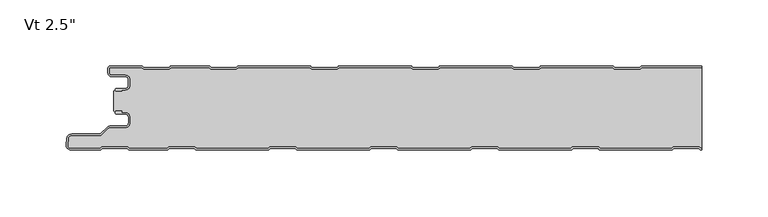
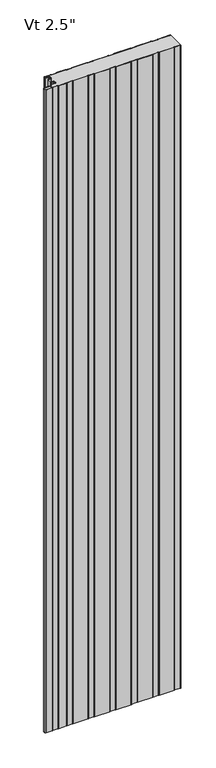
"""IFC4 building model written with IfcOpenShell, lengths in millimetres: plate geometry."""

from ifc_helpers import new_model, si_unit, point, frame, frame_2d, origin, origin_with_axes, place, context, project, spatial, polyline, circle_curve, trimmed, segment, composite_curve, outline, extrude, source, transform, mapped, element, save
from ifc_brep_helpers import plane_surface, cylinder_surface, revolved_surface, advanced_brep


def plate_c58314a5(model_context):
    return source(origin(), model_context, "Body", "SolidModel", [
        advanced_brep(
        [(-219.9686911, -17.0015243, 2400.0), (-220.9686883, -18.0015275, 2400.0), (-219.9686911, -19.0015188, 2400.0), (-215.9684874, -19.0015188, 2400.0), (-215.9684874, -18.0015243, 2400.0), (-213.2762776, -18.0015243, 2400.0), (-209.9762819, -14.7015286, 2400.0), (-209.9762819, -10.3015374, 2400.0), (-213.2762774, -7.0015419, 2400.0), (-223.6962563, -7.0015419, 2400.0), (-225.4662505, -5.2315477, 2400.0), (-225.4662505, -1.0, 2400.0), (-200.9659739, -1.0, 2400.0), (-199.5803313, -2.2002391, 2400.0), (-180.205165, -2.2002391, 2400.0), (-178.819532, -1.0000084, 2400.0), (-150.1661166, -1.0000084, 2400.0), (-148.7804837, -2.2002391, 2400.0), (-129.4053174, -2.2002391, 2400.0), (-128.0196844, -1.0000084, 2400.0), (-73.966269, -1.0000084, 2400.0), (-72.5806361, -2.2002391, 2400.0), (-53.2054698, -2.2002391, 2400.0), (-51.8198368, -1.0000084, 2400.0), (2.2335786, -1.0000084, 2400.0), (3.6192115, -2.2002391, 2400.0), (22.9943778, -2.2002391, 2400.0), (24.3800108, -1.0000084, 2400.0), (78.4334262, -1.0000084, 2400.0), (79.8190591, -2.2002391, 2400.0), (99.1942254, -2.2002391, 2400.0), (100.5798584, -1.0000084, 2400.0), (154.6332738, -1.0000084, 2400.0), (156.0189067, -2.2002391, 2400.0), (175.394073, -2.2002391, 2400.0), (176.779706, -1.0000084, 2400.0), (221.9999998, -1.0000084, 2400.0), (221.9999998, -8.4e-06, 2400.0), (176.9288571, -8.4e-06, 2400.0), (176.0122402, -0.3417969, 2400.0), (175.0211926, -1.2002391, 2400.0), (156.3917872, -1.2002391, 2400.0), (155.4007395, -0.3417969, 2400.0), (154.4841226, -8.4e-06, 2400.0), (100.7290095, -8.4e-06, 2400.0), (99.8123926, -0.3417969, 2400.0), (98.821345, -1.2002391, 2400.0), (80.1919396, -1.2002391, 2400.0), (79.2008919, -0.3417969, 2400.0), (78.284275, -8.4e-06, 2400.0), (24.5291619, -8.4e-06, 2400.0), (23.612545, -0.3417969, 2400.0), (22.6214974, -1.2002391, 2400.0), (3.992092, -1.2002391, 2400.0), (3.0010443, -0.3417969, 2400.0), (2.0844274, -8.4e-06, 2400.0), (-51.6706857, -8.4e-06, 2400.0), (-52.5873026, -0.3417969, 2400.0), (-53.5783502, -1.2002391, 2400.0), (-72.2077556, -1.2002391, 2400.0), (-73.1988033, -0.3417969, 2400.0), (-74.1154202, -8.4e-06, 2400.0), (-127.8705333, -8.4e-06, 2400.0), (-128.7871502, -0.3417969, 2400.0), (-129.7781978, -1.2002391, 2400.0), (-148.4076032, -1.2002391, 2400.0), (-149.3986509, -0.3417969, 2400.0), (-150.3152678, -8.4e-06, 2400.0), (-178.6703809, -8.4e-06, 2400.0), (-179.5869978, -0.3417969, 2400.0), (-180.5780454, -1.2002391, 2400.0), (-199.2074508, -1.2002391, 2400.0), (-200.1984985, -0.3417969, 2400.0), (-201.1152068, -8.4e-06, 2400.0), (-225.0662544, 0.0, 2400.0), (-226.4662505, -1.3999962, 2400.0), (-226.4662505, -5.2315477, 2400.0), (-223.6962563, -8.0015419, 2400.0), (-213.2762774, -8.0015419, 2400.0), (-210.9762819, -10.3015374, 2400.0), (-210.9762819, -14.7015286, 2400.0), (-213.2762776, -17.0015243, 2400.0), (-219.9686911, -17.0015243, 0.0), (-213.2762776, -17.0015243, 0.0), (-210.9762819, -14.7015286, 0.0), (-210.9762819, -10.3015374, 0.0), (-213.2762774, -8.0015419, 0.0), (-223.6962563, -8.0015419, 0.0), (-226.4662505, -5.2315477, 0.0), (-226.4662505, -1.3999962, 0.0), (-225.0662544, 0.0, 0.0), (-201.1151154, 0.0, 0.0), (-200.1984985, -0.3417969, 0.0), (-199.2074508, -1.2002391, 0.0), (-180.5780454, -1.2002391, 0.0), (-179.5869978, -0.3417969, 0.0), (-178.6703809, -8.4e-06, 0.0), (-150.3152678, -8.4e-06, 0.0), (-149.3986509, -0.3417969, 0.0), (-148.4076032, -1.2002391, 0.0), (-129.7781978, -1.2002391, 0.0), (-128.7871502, -0.3417969, 0.0), (-127.8705333, -8.4e-06, 0.0), (-74.1154202, -8.4e-06, 0.0), (-73.1988033, -0.3417969, 0.0), (-72.2077556, -1.2002391, 0.0), (-53.5783502, -1.2002391, 0.0), (-52.5873026, -0.3417969, 0.0), (-51.6706857, -8.4e-06, 0.0), (2.0844274, -8.4e-06, 0.0), (3.0010443, -0.3417969, 0.0), (3.992092, -1.2002391, 0.0), (22.6214974, -1.2002391, 0.0), (23.612545, -0.3417969, 0.0), (24.5291619, -8.4e-06, 0.0), (78.284275, -8.4e-06, 0.0), (79.2008919, -0.3417969, 0.0), (80.1919396, -1.2002391, 0.0), (98.821345, -1.2002391, 0.0), (99.8123926, -0.3417969, 0.0), (100.7290095, -8.4e-06, 0.0), (154.4841226, -8.4e-06, 0.0), (155.4007395, -0.3417969, 0.0), (156.3917872, -1.2002391, 0.0), (175.0211926, -1.2002391, 0.0), (176.0122402, -0.3417969, 0.0), (176.9288571, -8.4e-06, 0.0), (221.9999998, -8.4e-06, 0.0), (221.9999998, -1.0000084, 0.0), (176.779706, -1.0000084, 0.0), (175.394073, -2.2002391, 0.0), (156.0189067, -2.2002391, 0.0), (154.6332738, -1.0000084, 0.0), (100.5798584, -1.0000084, 0.0), (99.1942254, -2.2002391, 0.0), (79.8190591, -2.2002391, 0.0), (78.4334262, -1.0000084, 0.0), (24.3800108, -1.0000084, 0.0), (22.9943778, -2.2002391, 0.0), (3.6192115, -2.2002391, 0.0), (2.2335786, -1.0000084, 0.0), (-51.8198368, -1.0000084, 0.0), (-53.2054698, -2.2002391, 0.0), (-72.5806361, -2.2002391, 0.0), (-73.966269, -1.0000084, 0.0), (-128.0196844, -1.0000084, 0.0), (-129.4053174, -2.2002391, 0.0), (-148.7804837, -2.2002391, 0.0), (-150.1661166, -1.0000084, 0.0), (-178.819532, -1.0000084, 0.0), (-180.205165, -2.2002391, 0.0), (-199.5803313, -2.2002391, 0.0), (-200.9659739, -1.0, 0.0), (-225.4662505, -1.0, 0.0), (-225.4662505, -5.2315477, 0.0), (-223.6962563, -7.0015419, 0.0), (-213.2762774, -7.0015419, 0.0), (-209.9762819, -10.3015374, 0.0), (-209.9762819, -14.7015286, 0.0), (-213.2762776, -18.0015243, 0.0), (-215.9684874, -18.0015243, 0.0), (-215.9684874, -19.0015188, 0.0), (-219.9686911, -19.0015188, 0.0), (-220.9686883, -18.0015275, 0.0)],
        [
            (0, 1, circle_curve(frame((-219.9686911, -18.0015215, 2400.0), z_axis=(0.0, 0.0, 1.0), x_axis=(1.0, 0.0, 0.0)), 0.9999973)),
            (1, 2, circle_curve(frame((-219.9686911, -18.0015216, 2400.0), z_axis=(0.0, 0.0, 1.0), x_axis=(1.0, 0.0, 0.0)), 0.9999972)),
            (2, 3),
            (3, 4),
            (4, 5),
            (5, 6, circle_curve(frame((-213.2762776, -14.7015286, 2400.0), z_axis=(0.0, 0.0, 1.0), x_axis=(1.0, 0.0, 0.0)), 3.2999957)),
            (6, 7),
            (7, 8, circle_curve(frame((-213.2762774, -10.3015374, 2400.0), z_axis=(0.0, 0.0, 1.0), x_axis=(1.0, 0.0, 0.0)), 3.2999955)),
            (8, 9),
            (9, 10, circle_curve(frame((-223.6962563, -5.2315477, 2400.0), z_axis=(0.0, 0.0, -1.0), x_axis=(1.0, 0.0, 0.0)), 1.7699942)),
            (10, 11),
            (11, 12),
            (12, 13),
            (13, 14),
            (14, 15),
            (15, 16),
            (16, 17),
            (17, 18),
            (18, 19),
            (19, 20),
            (20, 21),
            (21, 22),
            (22, 23),
            (23, 24),
            (24, 25),
            (25, 26),
            (26, 27),
            (27, 28),
            (28, 29),
            (29, 30),
            (30, 31),
            (31, 32),
            (32, 33),
            (33, 34),
            (34, 35),
            (35, 36),
            (36, 37),
            (37, 38),
            (38, 39, circle_curve(frame((176.9288571, -1.4000056, 2400.0), z_axis=(0.0, 0.0, 1.0), x_axis=(1.0, 0.0, 0.0)), 1.3999972)),
            (39, 40),
            (40, 41),
            (41, 42),
            (42, 43, circle_curve(frame((154.4841226, -1.4000056, 2400.0), z_axis=(0.0, 0.0, 1.0), x_axis=(1.0, 0.0, 0.0)), 1.3999972)),
            (43, 44),
            (44, 45, circle_curve(frame((100.7290095, -1.4000056, 2400.0), z_axis=(0.0, 0.0, 1.0), x_axis=(1.0, 0.0, 0.0)), 1.3999972)),
            (45, 46),
            (46, 47),
            (47, 48),
            (48, 49, circle_curve(frame((78.284275, -1.4000056, 2400.0), z_axis=(0.0, 0.0, 1.0), x_axis=(1.0, 0.0, 0.0)), 1.3999972)),
            (49, 50),
            (50, 51, circle_curve(frame((24.5291619, -1.4000056, 2400.0), z_axis=(0.0, 0.0, 1.0), x_axis=(1.0, 0.0, 0.0)), 1.3999972)),
            (51, 52),
            (52, 53),
            (53, 54),
            (54, 55, circle_curve(frame((2.0844274, -1.4000056, 2400.0), z_axis=(0.0, 0.0, 1.0), x_axis=(1.0, 0.0, 0.0)), 1.3999972)),
            (55, 56),
            (56, 57, circle_curve(frame((-51.6706857, -1.4000056, 2400.0), z_axis=(0.0, 0.0, 1.0), x_axis=(1.0, 0.0, 0.0)), 1.3999972)),
            (57, 58),
            (58, 59),
            (59, 60),
            (60, 61, circle_curve(frame((-74.1154202, -1.4000056, 2400.0), z_axis=(0.0, 0.0, 1.0), x_axis=(1.0, 0.0, 0.0)), 1.3999972)),
            (61, 62),
            (62, 63, circle_curve(frame((-127.8705333, -1.4000056, 2400.0), z_axis=(0.0, 0.0, 1.0), x_axis=(1.0, 0.0, 0.0)), 1.3999972)),
            (63, 64),
            (64, 65),
            (65, 66),
            (66, 67, circle_curve(frame((-150.3152678, -1.4000056, 2400.0), z_axis=(0.0, 0.0, 1.0), x_axis=(1.0, 0.0, 0.0)), 1.3999972)),
            (67, 68),
            (68, 69, circle_curve(frame((-178.6703809, -1.4000056, 2400.0), z_axis=(0.0, 0.0, 1.0), x_axis=(1.0, 0.0, 0.0)), 1.3999972)),
            (69, 70),
            (70, 71),
            (71, 72),
            (72, 73, circle_curve(frame((-201.1151154, -1.4000056, 2400.0), z_axis=(0.0, 0.0, 1.0), x_axis=(1.0, 0.0, 0.0)), 1.3999972)),
            (73, 74),
            (74, 75, circle_curve(frame((-225.0662544, -1.3999962, 2400.0), z_axis=(0.0, 0.0, 1.0), x_axis=(1.0, 0.0, 0.0)), 1.3999962)),
            (75, 76),
            (76, 77, circle_curve(frame((-223.6962563, -5.2315477, 2400.0), z_axis=(0.0, 0.0, 1.0), x_axis=(1.0, 0.0, 0.0)), 2.7699942)),
            (77, 78),
            (78, 79, circle_curve(frame((-213.2762774, -10.3015374, 2400.0), z_axis=(0.0, 0.0, -1.0), x_axis=(1.0, 0.0, 0.0)), 2.2999955)),
            (79, 80),
            (80, 81, circle_curve(frame((-213.2762776, -14.7015286, 2400.0), z_axis=(0.0, 0.0, -1.0), x_axis=(1.0, 0.0, 0.0)), 2.2999957)),
            (81, 0),
            (82, 83),
            (83, 84, circle_curve(frame((-213.2762776, -14.7015286, 0.0), z_axis=(0.0, 0.0, 1.0), x_axis=(1.0, 0.0, 0.0)), 2.2999957)),
            (84, 85),
            (85, 86, circle_curve(frame((-213.2762774, -10.3015374, 0.0), z_axis=(0.0, 0.0, 1.0), x_axis=(1.0, 0.0, 0.0)), 2.2999955)),
            (86, 87),
            (87, 88, circle_curve(frame((-223.6962563, -5.2315477, 0.0), z_axis=(0.0, 0.0, -1.0), x_axis=(1.0, 0.0, 0.0)), 2.7699942)),
            (88, 89),
            (89, 90, circle_curve(frame((-225.0662544, -1.3999962, 0.0), z_axis=(0.0, 0.0, -1.0), x_axis=(1.0, 0.0, 0.0)), 1.3999962)),
            (90, 91),
            (91, 92, circle_curve(frame((-201.1151154, -1.4000056, 0.0), z_axis=(0.0, 0.0, -1.0), x_axis=(1.0, 0.0, 0.0)), 1.3999972)),
            (92, 93),
            (93, 94),
            (94, 95),
            (95, 96, circle_curve(frame((-178.6703809, -1.4000056, 0.0), z_axis=(0.0, 0.0, -1.0), x_axis=(1.0, 0.0, 0.0)), 1.3999972)),
            (96, 97),
            (97, 98, circle_curve(frame((-150.3152678, -1.4000056, 0.0), z_axis=(0.0, 0.0, -1.0), x_axis=(1.0, 0.0, 0.0)), 1.3999972)),
            (98, 99),
            (99, 100),
            (100, 101),
            (101, 102, circle_curve(frame((-127.8705333, -1.4000056, 0.0), z_axis=(0.0, 0.0, -1.0), x_axis=(1.0, 0.0, 0.0)), 1.3999972)),
            (102, 103),
            (103, 104, circle_curve(frame((-74.1154202, -1.4000056, 0.0), z_axis=(0.0, 0.0, -1.0), x_axis=(1.0, 0.0, 0.0)), 1.3999972)),
            (104, 105),
            (105, 106),
            (106, 107),
            (107, 108, circle_curve(frame((-51.6706857, -1.4000056, 0.0), z_axis=(0.0, 0.0, -1.0), x_axis=(1.0, 0.0, 0.0)), 1.3999972)),
            (108, 109),
            (109, 110, circle_curve(frame((2.0844274, -1.4000056, 0.0), z_axis=(0.0, 0.0, -1.0), x_axis=(1.0, 0.0, 0.0)), 1.3999972)),
            (110, 111),
            (111, 112),
            (112, 113),
            (113, 114, circle_curve(frame((24.5291619, -1.4000056, 0.0), z_axis=(0.0, 0.0, -1.0), x_axis=(1.0, 0.0, 0.0)), 1.3999972)),
            (114, 115),
            (115, 116, circle_curve(frame((78.284275, -1.4000056, 0.0), z_axis=(0.0, 0.0, -1.0), x_axis=(1.0, 0.0, 0.0)), 1.3999972)),
            (116, 117),
            (117, 118),
            (118, 119),
            (119, 120, circle_curve(frame((100.7290095, -1.4000056, 0.0), z_axis=(0.0, 0.0, -1.0), x_axis=(1.0, 0.0, 0.0)), 1.3999972)),
            (120, 121),
            (121, 122, circle_curve(frame((154.4841226, -1.4000056, 0.0), z_axis=(0.0, 0.0, -1.0), x_axis=(1.0, 0.0, 0.0)), 1.3999972)),
            (122, 123),
            (123, 124),
            (124, 125),
            (125, 126, circle_curve(frame((176.9288571, -1.4000056, 0.0), z_axis=(0.0, 0.0, -1.0), x_axis=(1.0, 0.0, 0.0)), 1.3999972)),
            (126, 127),
            (127, 128),
            (128, 129),
            (129, 130),
            (130, 131),
            (131, 132),
            (132, 133),
            (133, 134),
            (134, 135),
            (135, 136),
            (136, 137),
            (137, 138),
            (138, 139),
            (139, 140),
            (140, 141),
            (141, 142),
            (142, 143),
            (143, 144),
            (144, 145),
            (145, 146),
            (146, 147),
            (147, 148),
            (148, 149),
            (149, 150),
            (150, 151),
            (151, 152),
            (152, 153),
            (153, 154),
            (154, 155, circle_curve(frame((-223.6962563, -5.2315477, 0.0), z_axis=(0.0, 0.0, 1.0), x_axis=(1.0, 0.0, 0.0)), 1.7699942)),
            (155, 156),
            (156, 157, circle_curve(frame((-213.2762774, -10.3015374, 0.0), z_axis=(0.0, 0.0, -1.0), x_axis=(1.0, 0.0, 0.0)), 3.2999955)),
            (157, 158),
            (158, 159, circle_curve(frame((-213.2762776, -14.7015286, 0.0), z_axis=(0.0, 0.0, -1.0), x_axis=(1.0, 0.0, 0.0)), 3.2999957)),
            (159, 160),
            (160, 161),
            (161, 162),
            (162, 163, circle_curve(frame((-219.9686911, -18.0015216, 0.0), z_axis=(0.0, 0.0, -1.0), x_axis=(1.0, 0.0, 0.0)), 0.9999972)),
            (163, 82, circle_curve(frame((-219.9686911, -18.0015215, 0.0), z_axis=(0.0, 0.0, -1.0), x_axis=(1.0, 0.0, 0.0)), 0.9999973)),
            (36, 128),
            (127, 37),
            (81, 83),
            (82, 0),
            (80, 84),
            (79, 85),
            (78, 86),
            (77, 87),
            (76, 88),
            (75, 89),
            (74, 90),
            (73, 91),
            (72, 92),
            (71, 93),
            (70, 94),
            (69, 95),
            (68, 96),
            (67, 97),
            (66, 98),
            (65, 99),
            (64, 100),
            (63, 101),
            (62, 102),
            (61, 103),
            (60, 104),
            (59, 105),
            (58, 106),
            (57, 107),
            (56, 108),
            (55, 109),
            (54, 110),
            (53, 111),
            (52, 112),
            (51, 113),
            (50, 114),
            (49, 115),
            (48, 116),
            (47, 117),
            (46, 118),
            (45, 119),
            (44, 120),
            (43, 121),
            (42, 122),
            (41, 123),
            (40, 124),
            (39, 125),
            (38, 126),
            (35, 129),
            (34, 130),
            (33, 131),
            (32, 132),
            (31, 133),
            (30, 134),
            (29, 135),
            (28, 136),
            (27, 137),
            (26, 138),
            (25, 139),
            (24, 140),
            (23, 141),
            (22, 142),
            (21, 143),
            (20, 144),
            (19, 145),
            (18, 146),
            (17, 147),
            (16, 148),
            (15, 149),
            (14, 150),
            (13, 151),
            (12, 152),
            (11, 153),
            (10, 154),
            (9, 155),
            (8, 156),
            (7, 157),
            (6, 158),
            (5, 159),
            (4, 160),
            (3, 161),
            (2, 162),
            (1, 163),
        ],
        [
            plane_surface(frame((286.0000002, -8.4e-06, 2400.0), z_axis=(0.0, 0.0, 1.0), x_axis=(0.0, 1.0, 0.0))),
            plane_surface(frame((286.0000002, -8.4e-06, 0.0), z_axis=(0.0, 0.0, -1.0), x_axis=(0.0, 1.0, 0.0))),
            plane_surface(frame((221.9999998, -73.5000084, 2400.0), z_axis=(1.0, 0.0, 0.0), x_axis=(0.0, 0.0, -1.0))),
            plane_surface(frame((-219.9686911, -17.0015243, 2400.0), z_axis=(0.0, 1.0, 0.0), x_axis=(0.0, 0.0, -1.0))),
            revolved_surface(polyline([(-210.97628189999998, -14.7015286, 0.0), (-210.97628189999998, -14.7015286, 2400.0)]), (-213.2762776, -14.7015286, 2400.0), (0.0, 0.0, -1.0)),
            plane_surface(frame((-210.9762819, -14.7015286, 2400.0), z_axis=(-1.0, 0.0, 0.0), x_axis=(0.0, 0.0, -1.0))),
            revolved_surface(polyline([(-210.9762819, -10.3015374, 0.0), (-210.9762819, -10.3015374, 2400.0)]), (-213.2762774, -10.3015374, 2400.0), (0.0, 0.0, -1.0)),
            plane_surface(frame((-213.2762774, -8.0015419, 2400.0), z_axis=(0.0, -1.0, 0.0), x_axis=(0.0, 0.0, -1.0))),
            cylinder_surface(frame((-223.6962563, -5.2315477, 2400.0), z_axis=(0.0, 0.0, 1.0), x_axis=(1.0, 0.0, 0.0)), 2.7699942),
            plane_surface(frame((-226.4662505, -5.2315477, 2400.0), z_axis=(-1.0, 0.0, 0.0), x_axis=(0.0, 0.0, -1.0))),
            cylinder_surface(frame((-225.0662544, -1.3999962, 2400.0), z_axis=(0.0, 0.0, 1.0), x_axis=(1.0, 0.0, 0.0)), 1.3999962),
            plane_surface(frame((-225.0662544, 0.0, 2400.0), z_axis=(0.0, 1.0, 0.0), x_axis=(0.0, 0.0, -1.0))),
            cylinder_surface(frame((-201.1151154, -1.4000056, 2400.0), z_axis=(0.0, 0.0, 1.0), x_axis=(1.0, 0.0, 0.0)), 1.3999972),
            plane_surface(frame((-200.1984985, -0.3417969, 2400.0), z_axis=(0.6547276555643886, 0.755864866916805, 0.0), x_axis=(0.0, 0.0, -1.0))),
            plane_surface(frame((-189.8927481, -1.2002391, 2400.0), z_axis=(0.0, 1.0, 0.0), x_axis=(0.0, 0.0, -1.0))),
            plane_surface(frame((-180.5780454, -1.2002391, 2400.0), z_axis=(-0.6547276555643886, 0.755864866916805, 0.0), x_axis=(0.0, 0.0, -1.0))),
            cylinder_surface(frame((-178.6703809, -1.4000056, 2400.0), z_axis=(0.0, 0.0, 1.0), x_axis=(1.0, 0.0, 0.0)), 1.3999972),
            plane_surface(frame((-178.6703809, -8.4e-06, 2400.0), z_axis=(0.0, 1.0, 0.0), x_axis=(0.0, 0.0, -1.0))),
            cylinder_surface(frame((-150.3152678, -1.4000056, 2400.0), z_axis=(0.0, 0.0, 1.0), x_axis=(1.0, 0.0, 0.0)), 1.3999972),
            plane_surface(frame((-149.3986509, -0.3417969, 2400.0), z_axis=(0.6547276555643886, 0.755864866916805, 0.0), x_axis=(0.0, 0.0, -1.0))),
            plane_surface(frame((-139.0929005, -1.2002391, 2400.0), z_axis=(0.0, 1.0, 0.0), x_axis=(0.0, 0.0, -1.0))),
            plane_surface(frame((-129.7781978, -1.2002391, 2400.0), z_axis=(-0.6547276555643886, 0.755864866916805, 0.0), x_axis=(0.0, 0.0, -1.0))),
            cylinder_surface(frame((-127.8705333, -1.4000056, 2400.0), z_axis=(0.0, 0.0, 1.0), x_axis=(1.0, 0.0, 0.0)), 1.3999972),
            plane_surface(frame((-127.8705333, -8.4e-06, 2400.0), z_axis=(0.0, 1.0, 0.0), x_axis=(0.0, 0.0, -1.0))),
            cylinder_surface(frame((-74.1154202, -1.4000056, 2400.0), z_axis=(0.0, 0.0, 1.0), x_axis=(1.0, 0.0, 0.0)), 1.3999972),
            plane_surface(frame((-73.1988033, -0.3417969, 2400.0), z_axis=(0.6547276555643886, 0.755864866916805, 0.0), x_axis=(0.0, 0.0, -1.0))),
            plane_surface(frame((-62.8930529, -1.2002391, 2400.0), z_axis=(0.0, 1.0, 0.0), x_axis=(0.0, 0.0, -1.0))),
            plane_surface(frame((-53.5783502, -1.2002391, 2400.0), z_axis=(-0.6547276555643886, 0.755864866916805, 0.0), x_axis=(0.0, 0.0, -1.0))),
            cylinder_surface(frame((-51.6706857, -1.4000056, 2400.0), z_axis=(0.0, 0.0, 1.0), x_axis=(1.0, 0.0, 0.0)), 1.3999972),
            plane_surface(frame((-51.6706857, -8.4e-06, 2400.0), z_axis=(0.0, 1.0, 0.0), x_axis=(0.0, 0.0, -1.0))),
            cylinder_surface(frame((2.0844274, -1.4000056, 2400.0), z_axis=(0.0, 0.0, 1.0), x_axis=(1.0, 0.0, 0.0)), 1.3999972),
            plane_surface(frame((3.0010443, -0.3417969, 2400.0), z_axis=(0.6547276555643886, 0.755864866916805, 0.0), x_axis=(0.0, 0.0, -1.0))),
            plane_surface(frame((13.3067947, -1.2002391, 2400.0), z_axis=(0.0, 1.0, 0.0), x_axis=(0.0, 0.0, -1.0))),
            plane_surface(frame((22.6214974, -1.2002391, 2400.0), z_axis=(-0.6547276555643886, 0.755864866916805, 0.0), x_axis=(0.0, 0.0, -1.0))),
            cylinder_surface(frame((24.5291619, -1.4000056, 2400.0), z_axis=(0.0, 0.0, 1.0), x_axis=(1.0, 0.0, 0.0)), 1.3999972),
            plane_surface(frame((24.5291619, -8.4e-06, 2400.0), z_axis=(0.0, 1.0, 0.0), x_axis=(0.0, 0.0, -1.0))),
            cylinder_surface(frame((78.284275, -1.4000056, 2400.0), z_axis=(0.0, 0.0, 1.0), x_axis=(1.0, 0.0, 0.0)), 1.3999972),
            plane_surface(frame((79.2008919, -0.3417969, 2400.0), z_axis=(0.6547276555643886, 0.755864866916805, 0.0), x_axis=(0.0, 0.0, -1.0))),
            plane_surface(frame((89.5066423, -1.2002391, 2400.0), z_axis=(0.0, 1.0, 0.0), x_axis=(0.0, 0.0, -1.0))),
            plane_surface(frame((98.821345, -1.2002391, 2400.0), z_axis=(-0.6547276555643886, 0.755864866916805, 0.0), x_axis=(0.0, 0.0, -1.0))),
            cylinder_surface(frame((100.7290095, -1.4000056, 2400.0), z_axis=(0.0, 0.0, 1.0), x_axis=(1.0, 0.0, 0.0)), 1.3999972),
            plane_surface(frame((100.7290095, -8.4e-06, 2400.0), z_axis=(0.0, 1.0, 0.0), x_axis=(0.0, 0.0, -1.0))),
            cylinder_surface(frame((154.4841226, -1.4000056, 2400.0), z_axis=(0.0, 0.0, 1.0), x_axis=(1.0, 0.0, 0.0)), 1.3999972),
            plane_surface(frame((155.4007395, -0.3417969, 2400.0), z_axis=(0.6547276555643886, 0.755864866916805, 0.0), x_axis=(0.0, 0.0, -1.0))),
            plane_surface(frame((165.7064899, -1.2002391, 2400.0), z_axis=(0.0, 1.0, 0.0), x_axis=(0.0, 0.0, -1.0))),
            plane_surface(frame((175.0211926, -1.2002391, 2400.0), z_axis=(-0.6547276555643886, 0.755864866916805, 0.0), x_axis=(0.0, 0.0, -1.0))),
            cylinder_surface(frame((176.9288571, -1.4000056, 2400.0), z_axis=(0.0, 0.0, 1.0), x_axis=(1.0, 0.0, 0.0)), 1.3999972),
            plane_surface(frame((176.9288571, -8.4e-06, 2400.0), z_axis=(0.0, 1.0, 0.0), x_axis=(0.0, 0.0, -1.0))),
            plane_surface(frame((230.8331214, -1.0000084, 2400.0), z_axis=(0.0, -1.0, 0.0), x_axis=(0.0, 0.0, -1.0))),
            plane_surface(frame((176.779706, -1.0000084, 2400.0), z_axis=(0.6547276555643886, -0.755864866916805, 0.0), x_axis=(0.0, 0.0, -1.0))),
            plane_surface(frame((175.394073, -2.2002391, 2400.0), z_axis=(0.0, -1.0, 0.0), x_axis=(0.0, 0.0, -1.0))),
            plane_surface(frame((156.0189067, -2.2002391, 2400.0), z_axis=(-0.6547276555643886, -0.755864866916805, 0.0), x_axis=(0.0, 0.0, -1.0))),
            plane_surface(frame((154.6332738, -1.0000084, 2400.0), z_axis=(0.0, -1.0, 0.0), x_axis=(0.0, 0.0, -1.0))),
            plane_surface(frame((100.5798584, -1.0000084, 2400.0), z_axis=(0.6547276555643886, -0.755864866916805, 0.0), x_axis=(0.0, 0.0, -1.0))),
            plane_surface(frame((99.1942254, -2.2002391, 2400.0), z_axis=(0.0, -1.0, 0.0), x_axis=(0.0, 0.0, -1.0))),
            plane_surface(frame((79.8190591, -2.2002391, 2400.0), z_axis=(-0.6547276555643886, -0.755864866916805, 0.0), x_axis=(0.0, 0.0, -1.0))),
            plane_surface(frame((78.4334262, -1.0000084, 2400.0), z_axis=(0.0, -1.0, 0.0), x_axis=(0.0, 0.0, -1.0))),
            plane_surface(frame((24.3800108, -1.0000084, 2400.0), z_axis=(0.6547276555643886, -0.755864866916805, 0.0), x_axis=(0.0, 0.0, -1.0))),
            plane_surface(frame((22.9943778, -2.2002391, 2400.0), z_axis=(0.0, -1.0, 0.0), x_axis=(0.0, 0.0, -1.0))),
            plane_surface(frame((3.6192115, -2.2002391, 2400.0), z_axis=(-0.6547276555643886, -0.755864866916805, 0.0), x_axis=(0.0, 0.0, -1.0))),
            plane_surface(frame((2.2335786, -1.0000084, 2400.0), z_axis=(0.0, -1.0, 0.0), x_axis=(0.0, 0.0, -1.0))),
            plane_surface(frame((-51.8198368, -1.0000084, 2400.0), z_axis=(0.6547276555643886, -0.755864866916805, 0.0), x_axis=(0.0, 0.0, -1.0))),
            plane_surface(frame((-53.2054698, -2.2002391, 2400.0), z_axis=(0.0, -1.0, 0.0), x_axis=(0.0, 0.0, -1.0))),
            plane_surface(frame((-72.5806361, -2.2002391, 2400.0), z_axis=(-0.6547276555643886, -0.755864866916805, 0.0), x_axis=(0.0, 0.0, -1.0))),
            plane_surface(frame((-73.966269, -1.0000084, 2400.0), z_axis=(0.0, -1.0, 0.0), x_axis=(0.0, 0.0, -1.0))),
            plane_surface(frame((-128.0196844, -1.0000084, 2400.0), z_axis=(0.6547276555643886, -0.755864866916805, 0.0), x_axis=(0.0, 0.0, -1.0))),
            plane_surface(frame((-129.4053174, -2.2002391, 2400.0), z_axis=(0.0, -1.0, 0.0), x_axis=(0.0, 0.0, -1.0))),
            plane_surface(frame((-148.7804837, -2.2002391, 2400.0), z_axis=(-0.6547276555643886, -0.755864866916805, 0.0), x_axis=(0.0, 0.0, -1.0))),
            plane_surface(frame((-150.1661166, -1.0000084, 2400.0), z_axis=(0.0, -1.0, 0.0), x_axis=(0.0, 0.0, -1.0))),
            plane_surface(frame((-178.819532, -1.0000084, 2400.0), z_axis=(0.6547276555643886, -0.755864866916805, 0.0), x_axis=(0.0, 0.0, -1.0))),
            plane_surface(frame((-180.205165, -2.2002391, 2400.0), z_axis=(0.0, -1.0, 0.0), x_axis=(0.0, 0.0, -1.0))),
            plane_surface(frame((-199.5803313, -2.2002391, 2400.0), z_axis=(-0.6547276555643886, -0.755864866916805, 0.0), x_axis=(0.0, 0.0, -1.0))),
            plane_surface(frame((-200.9659739, -1.0, 2400.0), z_axis=(0.0, -1.0, 0.0), x_axis=(0.0, 0.0, -1.0))),
            plane_surface(frame((-225.4662505, -1.0, 2400.0), z_axis=(1.0, 0.0, 0.0), x_axis=(0.0, 0.0, -1.0))),
            revolved_surface(polyline([(-221.92626209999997, -5.2315477, 0.0), (-221.92626209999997, -5.2315477, 2400.0)]), (-223.6962563, -5.2315477, 2400.0), (0.0, 0.0, -1.0)),
            plane_surface(frame((-223.6962563, -7.0015419, 2400.0), z_axis=(0.0, 1.0, 0.0), x_axis=(0.0, 0.0, -1.0))),
            cylinder_surface(frame((-213.2762774, -10.3015374, 2400.0), z_axis=(0.0, 0.0, 1.0), x_axis=(1.0, 0.0, 0.0)), 3.2999955),
            plane_surface(frame((-209.9762819, -10.3015374, 2400.0), z_axis=(1.0, 0.0, 0.0), x_axis=(0.0, 0.0, -1.0))),
            cylinder_surface(frame((-213.2762776, -14.7015286, 2400.0), z_axis=(0.0, 0.0, 1.0), x_axis=(1.0, 0.0, 0.0)), 3.2999957),
            plane_surface(frame((-213.2762776, -18.0015243, 2400.0), z_axis=(0.0, -1.0, 0.0), x_axis=(0.0, 0.0, -1.0))),
            plane_surface(frame((-215.9684874, -18.0015243, 2400.0), z_axis=(1.0, 0.0, 0.0), x_axis=(0.0, 0.0, -1.0))),
            plane_surface(frame((-215.9684874, -19.0015188, 2400.0), z_axis=(0.0, -1.0, 0.0), x_axis=(0.0, 0.0, -1.0))),
            cylinder_surface(frame((-219.9686911, -18.0015216, 2400.0), z_axis=(0.0, 0.0, 1.0), x_axis=(1.0, 0.0, 0.0)), 0.9999972),
            cylinder_surface(frame((-219.9686911, -18.0015215, 2400.0), z_axis=(0.0, 0.0, 1.0), x_axis=(1.0, 0.0, 0.0)), 0.9999973),
        ],
        [
            (0, [[1, 2, 3, 4, 5, 6, 7, 8, 9, 10, 11, 12, 13, 14, 15, 16, 17, 18, 19, 20, 21, 22, 23, 24, 25, 26, 27, 28, 29, 30, 31, 32, 33, 34, 35, 36, 37, 38, 39, 40, 41, 42, 43, 44, 45, 46, 47, 48, 49, 50, 51, 52, 53, 54, 55, 56, 57, 58, 59, 60, 61, 62, 63, 64, 65, 66, 67, 68, 69, 70, 71, 72, 73, 74, 75, 76, 77, 78, 79, 80, 81, 82]]),
            (1, [[83, 84, 85, 86, 87, 88, 89, 90, 91, 92, 93, 94, 95, 96, 97, 98, 99, 100, 101, 102, 103, 104, 105, 106, 107, 108, 109, 110, 111, 112, 113, 114, 115, 116, 117, 118, 119, 120, 121, 122, 123, 124, 125, 126, 127, 128, 129, 130, 131, 132, 133, 134, 135, 136, 137, 138, 139, 140, 141, 142, 143, 144, 145, 146, 147, 148, 149, 150, 151, 152, 153, 154, 155, 156, 157, 158, 159, 160, 161, 162, 163, 164]]),
            (2, [[165, -128, 166, -37]]),
            (3, [[167, -83, 168, -82]]),
            (4, [[169, -84, -167, -81]]),
            (5, [[170, -85, -169, -80]]),
            (6, [[171, -86, -170, -79]]),
            (7, [[172, -87, -171, -78]]),
            (8, [[173, -88, -172, -77]]),
            (9, [[174, -89, -173, -76]]),
            (10, [[175, -90, -174, -75]]),
            (11, [[176, -91, -175, -74]]),
            (12, [[177, -92, -176, -73]]),
            (13, [[178, -93, -177, -72]]),
            (14, [[179, -94, -178, -71]]),
            (15, [[180, -95, -179, -70]]),
            (16, [[181, -96, -180, -69]]),
            (17, [[182, -97, -181, -68]]),
            (18, [[183, -98, -182, -67]]),
            (19, [[184, -99, -183, -66]]),
            (20, [[185, -100, -184, -65]]),
            (21, [[186, -101, -185, -64]]),
            (22, [[187, -102, -186, -63]]),
            (23, [[188, -103, -187, -62]]),
            (24, [[189, -104, -188, -61]]),
            (25, [[190, -105, -189, -60]]),
            (26, [[191, -106, -190, -59]]),
            (27, [[192, -107, -191, -58]]),
            (28, [[193, -108, -192, -57]]),
            (29, [[194, -109, -193, -56]]),
            (30, [[195, -110, -194, -55]]),
            (31, [[196, -111, -195, -54]]),
            (32, [[197, -112, -196, -53]]),
            (33, [[198, -113, -197, -52]]),
            (34, [[199, -114, -198, -51]]),
            (35, [[200, -115, -199, -50]]),
            (36, [[201, -116, -200, -49]]),
            (37, [[202, -117, -201, -48]]),
            (38, [[203, -118, -202, -47]]),
            (39, [[204, -119, -203, -46]]),
            (40, [[205, -120, -204, -45]]),
            (41, [[206, -121, -205, -44]]),
            (42, [[207, -122, -206, -43]]),
            (43, [[208, -123, -207, -42]]),
            (44, [[209, -124, -208, -41]]),
            (45, [[210, -125, -209, -40]]),
            (46, [[211, -126, -210, -39]]),
            (47, [[-38, -166, -127, -211]]),
            (48, [[-129, -165, -36, 212]]),
            (49, [[213, -130, -212, -35]]),
            (50, [[214, -131, -213, -34]]),
            (51, [[215, -132, -214, -33]]),
            (52, [[216, -133, -215, -32]]),
            (53, [[217, -134, -216, -31]]),
            (54, [[218, -135, -217, -30]]),
            (55, [[219, -136, -218, -29]]),
            (56, [[220, -137, -219, -28]]),
            (57, [[221, -138, -220, -27]]),
            (58, [[222, -139, -221, -26]]),
            (59, [[223, -140, -222, -25]]),
            (60, [[224, -141, -223, -24]]),
            (61, [[225, -142, -224, -23]]),
            (62, [[226, -143, -225, -22]]),
            (63, [[227, -144, -226, -21]]),
            (64, [[228, -145, -227, -20]]),
            (65, [[229, -146, -228, -19]]),
            (66, [[230, -147, -229, -18]]),
            (67, [[231, -148, -230, -17]]),
            (68, [[232, -149, -231, -16]]),
            (69, [[233, -150, -232, -15]]),
            (70, [[234, -151, -233, -14]]),
            (71, [[235, -152, -234, -13]]),
            (72, [[236, -153, -235, -12]]),
            (73, [[237, -154, -236, -11]]),
            (74, [[238, -155, -237, -10]]),
            (75, [[239, -156, -238, -9]]),
            (76, [[240, -157, -239, -8]]),
            (77, [[241, -158, -240, -7]]),
            (78, [[242, -159, -241, -6]]),
            (79, [[243, -160, -242, -5]]),
            (80, [[244, -161, -243, -4]]),
            (81, [[245, -162, -244, -3]]),
            (82, [[246, -163, -245, -2]]),
            (83, [[-168, -164, -246, -1]]),
        ],
    ),
        extrude(outline(composite_curve([segment(polyline([(-232.6415932, -63.4997462), (-254.4521175, -63.4997462)]), True, "CONTINUOUS"), segment(trimmed(circle_curve(frame_2d((-254.4521175, -59.9295069)), 3.5702393), [point((-254.4521175, -63.4997462))], [point((-258.0087619, -59.6182365))], False, "CARTESIAN"), True, "CONTINUOUS"), segment(polyline([(-258.0087619, -59.6182365), (-257.5690674, -54.5941899)]), True, "CONTINUOUS"), segment(trimmed(circle_curve(frame_2d((-253.9198391, -55.204991)), 3.6999926), [point((-257.5690674, -54.5941899))], [point((-253.9198391, -51.5049984))], False, "CARTESIAN"), True, "CONTINUOUS"), segment(polyline([(-253.9198391, -51.5049984), (-232.7773995, -51.5049984)]), True, "CONTINUOUS"), segment(trimmed(circle_curve(frame_2d((-232.7773995, -50.205001)), 1.2999974), [point((-232.7773995, -51.5049984))], [point((-231.8581626, -51.124238))], True, "CARTESIAN"), True, "CONTINUOUS"), segment(polyline([(-231.8581626, -51.124238), (-227.0297451, -46.2958205)]), True, "CONTINUOUS"), segment(trimmed(circle_curve(frame_2d((-225.1205606, -48.205005)), 2.6999946), [point((-227.0297451, -46.2958205))], [point((-225.1205606, -45.5050104))], False, "CARTESIAN"), True, "CONTINUOUS"), segment(polyline([(-225.1205606, -45.5050104), (-213.3096715, -45.5050104)]), True, "CONTINUOUS"), segment(trimmed(circle_curve(frame_2d((-213.3096715, -43.1550151)), 2.3499953), [point((-213.3096715, -45.5050104))], [point((-210.9596762, -43.1550151))], True, "CARTESIAN"), True, "CONTINUOUS"), segment(polyline([(-210.9596762, -43.1550151), (-210.9596762, -38.7550239)]), True, "CONTINUOUS"), segment(trimmed(circle_curve(frame_2d((-213.3096715, -38.7550239)), 2.3499953), [point((-210.9596762, -38.7550239))], [point((-213.3096715, -36.4050286))], True, "CARTESIAN"), True, "CONTINUOUS"), segment(polyline([(-213.3096715, -36.4050286), (-219.8289777, -36.4050286)]), True, "CONTINUOUS"), segment(trimmed(circle_curve(frame_2d((-219.7686906, -35.2065463)), 1.1999976), [point((-219.8289777, -36.4050286))], [point((-220.9683, -35.1760244))], False, "CARTESIAN"), True, "CONTINUOUS"), segment(trimmed(circle_curve(frame_2d((-219.7686906, -35.2065463)), 1.1999976), [point((-220.9683, -35.1760244))], [point((-219.767176, -34.0065497))], False, "CARTESIAN"), True, "CONTINUOUS"), segment(polyline([(-219.767176, -34.0065497), (-216.0087826, -34.0065497), (-216.0087826, -35.4050286), (-213.3096715, -35.4050286)]), True, "CONTINUOUS"), segment(trimmed(circle_curve(frame_2d((-213.3096715, -38.7550239)), 3.3499953), [point((-213.3096715, -35.4050286))], [point((-209.9596762, -38.7550239))], False, "CARTESIAN"), True, "CONTINUOUS"), segment(polyline([(-209.9596762, -38.7550239), (-209.9596762, -43.1550151)]), True, "CONTINUOUS"), segment(trimmed(circle_curve(frame_2d((-213.3096715, -43.1550151)), 3.3499953), [point((-209.9596762, -43.1550151))], [point((-213.3096715, -46.5050104))], False, "CARTESIAN"), True, "CONTINUOUS"), segment(polyline([(-213.3096715, -46.5050104), (-225.1205606, -46.5050104)]), True, "CONTINUOUS"), segment(trimmed(circle_curve(frame_2d((-225.1205606, -48.205005)), 1.6999946), [point((-225.1205606, -46.5050104))], [point((-226.3226383, -47.0029273))], True, "CARTESIAN"), True, "CONTINUOUS"), segment(polyline([(-226.3226383, -47.0029273), (-231.8247094, -52.5049984), (-253.9198391, -52.5049984)]), True, "CONTINUOUS"), segment(trimmed(circle_curve(frame_2d((-253.9198391, -55.204991)), 2.6999926), [point((-253.9198391, -52.5049984))], [point((-256.5765707, -54.7236004))], True, "CARTESIAN"), True, "CONTINUOUS"), segment(polyline([(-256.5765707, -54.7236004), (-257.0125697, -59.7054212)]), True, "CONTINUOUS"), segment(trimmed(circle_curve(frame_2d((-254.4521175, -59.9295069)), 2.5702393), [point((-257.0125697, -59.7054212))], [point((-254.4521175, -62.4997462))], True, "CARTESIAN"), True, "CONTINUOUS"), segment(polyline([(-254.4521175, -62.4997462), (-232.479096, -62.4997462), (-231.2791275, -61.2997777), (-211.559715, -61.2997777), (-210.3594843, -62.5000084), (-181.6793525, -62.5000084), (-180.4791218, -61.2997777), (-160.7597093, -61.2997777), (-159.5594786, -62.5000084), (-105.4793468, -62.5000084), (-104.2791161, -61.2997777), (-84.5597036, -61.2997777), (-83.3594729, -62.5000084), (-29.2793411, -62.5000084), (-28.0791104, -61.2997777), (-8.3596979, -61.2997777), (-7.1594672, -62.5000084), (46.9206646, -62.5000084), (48.1208953, -61.2997777), (67.8403078, -61.2997777), (69.0405385, -62.5000084), (123.1206703, -62.5000084), (124.320901, -61.2997777), (144.0403135, -61.2997777), (145.2405442, -62.5000084), (199.3206759, -62.5000084), (200.5209066, -61.2997777), (220.2403192, -61.2997777), (221.4405499, -62.5000084), (221.9999998, -62.5000084), (221.9999998, -63.5000084), (221.6098268, -63.5000084)]), True, "CONTINUOUS"), segment(trimmed(circle_curve(frame_2d((221.6021734, -62.1000321)), 1.3999972), [point((221.6098268, -63.5000084))], [point((220.5581226, -63.0327432))], False, "CARTESIAN"), True, "CONTINUOUS"), segment(polyline([(220.5581226, -63.0327432), (219.825157, -62.2997777), (200.9344878, -62.2997777), (200.2015432, -63.0327223)]), True, "CONTINUOUS"), segment(trimmed(circle_curve(frame_2d((199.1574924, -62.1000112)), 1.3999972), [point((200.2015432, -63.0327223))], [point((199.1574924, -63.5000084))], False, "CARTESIAN"), True, "CONTINUOUS"), segment(polyline([(199.1574924, -63.5000084), (145.4099792, -63.5000084)]), True, "CONTINUOUS"), segment(trimmed(circle_curve(frame_2d((145.4023258, -62.1000321)), 1.3999972), [point((145.4099792, -63.5000084))], [point((144.358275, -63.0327432))], False, "CARTESIAN"), True, "CONTINUOUS"), segment(polyline([(144.358275, -63.0327432), (143.6253094, -62.2997777), (124.7346402, -62.2997777), (124.0016956, -63.0327223)]), True, "CONTINUOUS"), segment(trimmed(circle_curve(frame_2d((122.9576448, -62.1000112)), 1.3999972), [point((124.0016956, -63.0327223))], [point((122.9576448, -63.5000084))], False, "CARTESIAN"), True, "CONTINUOUS"), segment(polyline([(122.9576448, -63.5000084), (69.2101316, -63.5000084)]), True, "CONTINUOUS"), segment(trimmed(circle_curve(frame_2d((69.2024782, -62.1000321)), 1.3999972), [point((69.2101316, -63.5000084))], [point((68.1584274, -63.0327432))], False, "CARTESIAN"), True, "CONTINUOUS"), segment(polyline([(68.1584274, -63.0327432), (67.4254618, -62.2997777), (48.5347926, -62.2997777), (47.801848, -63.0327223)]), True, "CONTINUOUS"), segment(trimmed(circle_curve(frame_2d((46.7577972, -62.1000112)), 1.3999972), [point((47.801848, -63.0327223))], [point((46.7577972, -63.5000084))], False, "CARTESIAN"), True, "CONTINUOUS"), segment(polyline([(46.7577972, -63.5000084), (-6.989716, -63.5000084)]), True, "CONTINUOUS"), segment(trimmed(circle_curve(frame_2d((-6.9973694, -62.1000321)), 1.3999972), [point((-6.989716, -63.5000084))], [point((-8.0414202, -63.0327432))], False, "CARTESIAN"), True, "CONTINUOUS"), segment(polyline([(-8.0414202, -63.0327432), (-8.7743858, -62.2997777), (-27.665055, -62.2997777), (-28.3979996, -63.0327223)]), True, "CONTINUOUS"), segment(trimmed(circle_curve(frame_2d((-29.4420504, -62.1000112)), 1.3999972), [point((-28.3979996, -63.0327223))], [point((-29.4420504, -63.5000084))], False, "CARTESIAN"), True, "CONTINUOUS"), segment(polyline([(-29.4420504, -63.5000084), (-83.1895636, -63.5000084)]), True, "CONTINUOUS"), segment(trimmed(circle_curve(frame_2d((-83.197217, -62.1000321)), 1.3999972), [point((-83.1895636, -63.5000084))], [point((-84.2412678, -63.0327432))], False, "CARTESIAN"), True, "CONTINUOUS"), segment(polyline([(-84.2412678, -63.0327432), (-84.9742334, -62.2997777), (-103.8649026, -62.2997777), (-104.5978472, -63.0327223)]), True, "CONTINUOUS"), segment(trimmed(circle_curve(frame_2d((-105.641898, -62.1000112)), 1.3999972), [point((-104.5978472, -63.0327223))], [point((-105.641898, -63.5000084))], False, "CARTESIAN"), True, "CONTINUOUS"), segment(polyline([(-105.641898, -63.5000084), (-159.3894112, -63.5000084)]), True, "CONTINUOUS"), segment(trimmed(circle_curve(frame_2d((-159.3970646, -62.1000321)), 1.3999972), [point((-159.3894112, -63.5000084))], [point((-160.4411154, -63.0327432))], False, "CARTESIAN"), True, "CONTINUOUS"), segment(polyline([(-160.4411154, -63.0327432), (-161.174081, -62.2997777), (-180.0647502, -62.2997777), (-180.7976948, -63.0327223)]), True, "CONTINUOUS"), segment(trimmed(circle_curve(frame_2d((-181.8417456, -62.1000112)), 1.3999972), [point((-180.7976948, -63.0327223))], [point((-181.8417456, -63.5000084))], False, "CARTESIAN"), True, "CONTINUOUS"), segment(polyline([(-181.8417456, -63.5000084), (-210.1892588, -63.5000084)]), True, "CONTINUOUS"), segment(trimmed(circle_curve(frame_2d((-210.1969122, -62.1000321)), 1.3999972), [point((-210.1892588, -63.5000084))], [point((-211.240963, -63.0327432))], False, "CARTESIAN"), True, "CONTINUOUS"), segment(polyline([(-211.240963, -63.0327432), (-211.9739286, -62.2997777), (-230.8649139, -62.2997777), (-231.5976402, -63.0325039)]), True, "CONTINUOUS"), segment(trimmed(circle_curve(frame_2d((-232.6415932, -62.0998801)), 1.3998661), [point((-231.5976402, -63.0325039))], [point((-232.6415932, -63.4997462))], False, "CARTESIAN"), True, "CONTINUOUS")], self_intersect=False)), origin_with_axes(), (0.0, 0.0, 1.0), 2400.0),
        extrude(outline(composite_curve([segment(polyline([(-220.9683, -35.1760244), (-221.9999998, -34.1443246), (-221.9999998, -19.0328392), (-220.9686882, -18.0015275)]), True, "CONTINUOUS"), segment(trimmed(circle_curve(frame_2d((-219.968691, -18.0015216)), 0.9999972), [point((-220.9686882, -18.0015275))], [point((-219.968691, -19.0015188))], True, "CARTESIAN"), True, "CONTINUOUS"), segment(polyline([(-219.968691, -19.0015188), (-215.9684874, -19.0015188), (-215.9684874, -18.0015243), (-213.2762776, -18.0015243)]), True, "CONTINUOUS"), segment(trimmed(circle_curve(frame_2d((-213.2762776, -14.7015286)), 3.2999957), [point((-213.2762776, -18.0015243))], [point((-209.9762819, -14.7015286))], True, "CARTESIAN"), True, "CONTINUOUS"), segment(polyline([(-209.9762819, -14.7015286), (-209.9762819, -10.3015374)]), True, "CONTINUOUS"), segment(trimmed(circle_curve(frame_2d((-213.2762777, -10.3015374)), 3.2999959), [point((-209.9762819, -10.3015374))], [point((-213.2762777, -7.0015415))], True, "CARTESIAN"), True, "CONTINUOUS"), segment(polyline([(-213.2762777, -7.0015415), (-223.6962563, -7.0015415)]), True, "CONTINUOUS"), segment(trimmed(circle_curve(frame_2d((-223.6962563, -5.2315473)), 1.7699942), [point((-223.6962563, -7.0015415))], [point((-225.4662505, -5.2315473))], False, "CARTESIAN"), True, "CONTINUOUS"), segment(polyline([(-225.4662505, -5.2315473), (-225.4662505, -1.0), (-200.9659738, -1.0), (-199.5803312, -2.2002391), (-180.2051649, -2.2002391), (-178.819532, -1.0000084), (-150.1661166, -1.0000084), (-148.7804836, -2.2002391), (-129.4053173, -2.2002391), (-128.0196844, -1.0000084), (-73.966269, -1.0000084), (-72.580636, -2.2002391), (-53.2054697, -2.2002391), (-51.8198368, -1.0000084), (2.2335786, -1.0000084), (3.6192116, -2.2002391), (22.9943779, -2.2002391), (24.3800108, -1.0000084), (78.4334262, -1.0000084), (79.8190592, -2.2002391), (99.1942255, -2.2002391), (100.5798584, -1.0000084), (154.6332738, -1.0000084), (156.0189068, -2.2002391), (175.3940731, -2.2002391), (176.779706, -1.0000084), (221.9999998, -1.0000084), (221.9999998, -62.5000084), (221.4405499, -62.5000084), (220.2403192, -61.2997777), (200.5209066, -61.2997777), (199.3206759, -62.5000084), (145.2405442, -62.5000084), (144.0403135, -61.2997777), (124.320901, -61.2997777), (123.1206703, -62.5000084), (69.0405385, -62.5000084), (67.8403078, -61.2997777), (48.1208953, -61.2997777), (46.9206646, -62.5000084), (-7.1594672, -62.5000084), (-8.3596979, -61.2997777), (-28.0791104, -61.2997777), (-29.2793411, -62.5000084), (-83.3594729, -62.5000084), (-84.5597036, -61.2997777), (-104.2791161, -61.2997777), (-105.4793468, -62.5000084), (-159.5594786, -62.5000084), (-160.7597093, -61.2997777), (-180.4791218, -61.2997777), (-181.6793525, -62.5000084), (-210.3594843, -62.5000084), (-211.559715, -61.2997777), (-231.2791275, -61.2997777), (-232.479096, -62.4997462), (-254.4521175, -62.4997462)]), True, "CONTINUOUS"), segment(trimmed(circle_curve(frame_2d((-254.4521175, -59.9295069)), 2.5702393), [point((-254.4521175, -62.4997462))], [point((-257.0125697, -59.7054212))], False, "CARTESIAN"), True, "CONTINUOUS"), segment(polyline([(-257.0125697, -59.7054212), (-256.5765707, -54.7236004)]), True, "CONTINUOUS"), segment(trimmed(circle_curve(frame_2d((-253.9198391, -55.204991)), 2.6999926), [point((-256.5765707, -54.7236004))], [point((-253.9198391, -52.5049984))], False, "CARTESIAN"), True, "CONTINUOUS"), segment(polyline([(-253.9198391, -52.5049984), (-231.8247094, -52.5049984), (-226.3226383, -47.0029273)]), True, "CONTINUOUS"), segment(trimmed(circle_curve(frame_2d((-225.1205606, -48.205005)), 1.6999946), [point((-226.3226383, -47.0029273))], [point((-225.1205606, -46.5050104))], False, "CARTESIAN"), True, "CONTINUOUS"), segment(polyline([(-225.1205606, -46.5050104), (-213.3096715, -46.5050104)]), True, "CONTINUOUS"), segment(trimmed(circle_curve(frame_2d((-213.3096715, -43.1550151)), 3.3499953), [point((-213.3096715, -46.5050104))], [point((-209.9596762, -43.1550151))], True, "CARTESIAN"), True, "CONTINUOUS"), segment(polyline([(-209.9596762, -43.1550151), (-209.9596762, -38.7550239)]), True, "CONTINUOUS"), segment(trimmed(circle_curve(frame_2d((-213.3096715, -38.7550239)), 3.3499953), [point((-209.9596762, -38.7550239))], [point((-213.3096715, -35.4050286))], True, "CARTESIAN"), True, "CONTINUOUS"), segment(polyline([(-213.3096715, -35.4050286), (-216.0087826, -35.4050286), (-216.0087826, -34.0065497), (-219.767176, -34.0065497)]), True, "CONTINUOUS"), segment(trimmed(circle_curve(frame_2d((-219.7686906, -35.2065463)), 1.1999976), [point((-219.767176, -34.0065497))], [point((-220.9683, -35.1760244))], True, "CARTESIAN"), True, "CONTINUOUS")], self_intersect=False)), origin_with_axes(), (0.0, 0.0, 1.0), 2400.0),
    ])


if __name__ == "__main__":
    model = new_model("IFC4")
    model_context = context("Model", 3, world=origin())
    ifc_project = project(units=[si_unit("LENGTHUNIT", "METRE", prefix="MILLI")], contexts=[model_context])
    site = spatial("IfcSite", under=ifc_project)
    building = spatial("IfcBuilding", under=site)
    placement = place(None, origin())
    plate_shape = plate_c58314a5(model_context)
    element("IfcPlate", 1, ObjectType="KIP-40-Karrier-KP-R19-CP-Vt-SL3-8in_SL : Vt 2.5\"", at=placement, inside=building, context=model_context, shape_type="MappedRepresentation", body=[
        mapped(plate_shape, transform((0.0, 0.0, 0.0), x_axis=(1.0, 0.0, 0.0), y_axis=(0.0, 1.0, 0.0), z_axis=(0.0, 0.0, 1.0))),
    ])
    save(model, "model.ifc")
